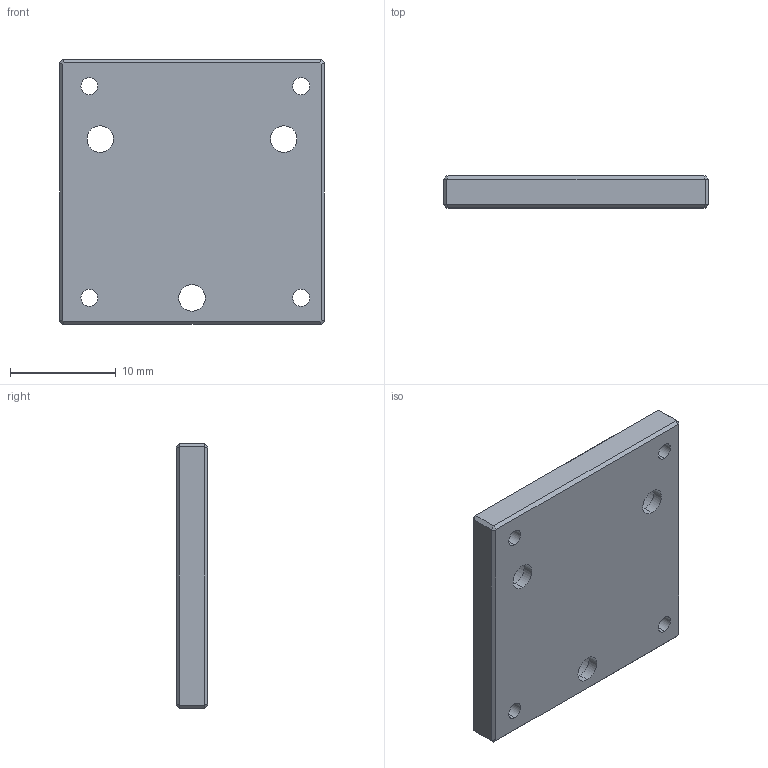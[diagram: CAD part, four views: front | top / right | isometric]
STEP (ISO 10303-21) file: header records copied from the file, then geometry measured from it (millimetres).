
FILE_DESCRIPTION (( 'STEP AP203' ), '1' );
FILE_NAME ('BP-19.step', '2019-05-09T08:55:36', ( '' ), ( '' ), 'SwSTEP 2.0', 'SolidWorks 2016', '' );
FILE_SCHEMA (( 'CONFIG_CONTROL_DESIGN' ));
Length unit declared in the file: millimetre
Products named in the file (1): BP-19
Bounding box: 25 x 3 x 25 mm (x, y, z)
Volume: 1751.3 mm3; surface area: 1626.1 mm2
Topology: 1 solids, 1 shells, 49 faces, 116 edges, 72 vertices
Faces by surface type: plane 29, cylinder 20
Entity records: 1507 total; most frequent: DIRECTION 256, CARTESIAN_POINT 238, ORIENTED_EDGE 232, EDGE_CURVE 116, AXIS2_PLACEMENT_3D 90, LINE 76, VECTOR 76, VERTEX_POINT 72
